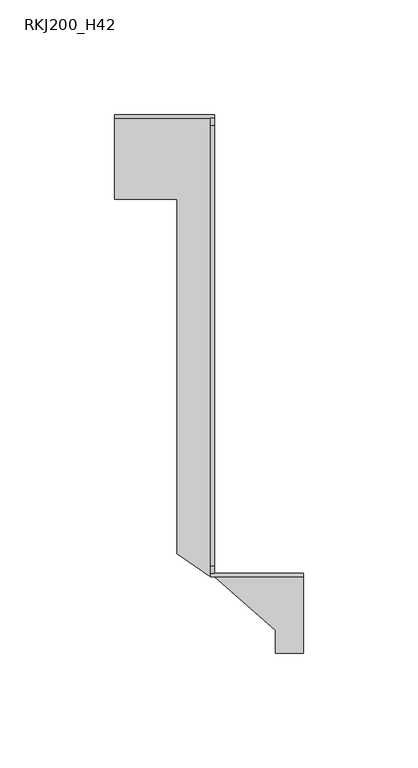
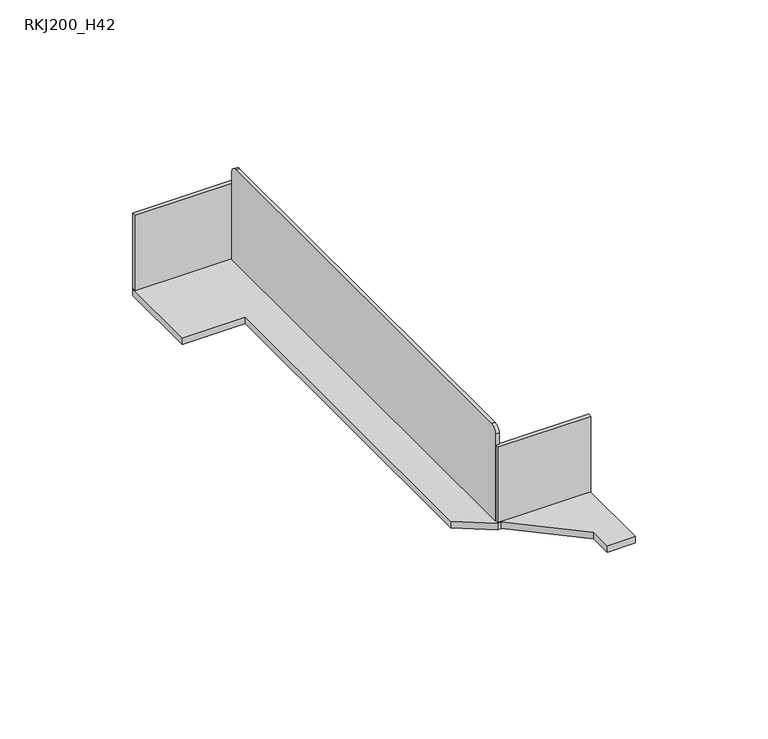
"""IFC4 building model written with IfcOpenShell, lengths in millimetres: cable carrier fitting geometry, BAKS_Angle reducer : RKJ200_H42."""

import ifcopenshell
import ifcopenshell.guid

model = None  # the IFC model being written
_history = None  # IfcOwnerHistory: only IFC2X3 demands one
_inside = {}  # id of a spatial element -> (the spatial element, [elements in it])
_under = {}  # id of a project, library or spatial element -> (it, [spatial elements below it])
_declared = {}  # id of a project -> (the project, [libraries it declares])
_typed = {}  # id of a type object -> (the type object, [elements of that type])
_made_of = {}  # id of a material, layer set ... -> (it, [elements and type objects made of it])


def new_model(schema):
    """Start an empty IFC model of exactly this schema.

    Asked for "IFC4X3", IfcOpenShell would pick the latest addendum, in which some entities
    have other attributes; the version numbers below select the first issue.
    IFC2X3 requires an IfcOwnerHistory on every rooted entity: one is made here for all.
    """
    global model, _history
    if schema == "IFC4X3":
        model = ifcopenshell.file(schema_version=(4, 3, 0, 0))
    else:
        model = ifcopenshell.file(schema=schema)
    _inside.clear()
    _under.clear()
    _declared.clear()
    _typed.clear()
    _made_of.clear()
    _history = None
    if model.schema == "IFC2X3":
        org = make("IfcOrganization", Name="unknown")
        user = make(
            "IfcPersonAndOrganization",
            ThePerson=make("IfcPerson", FamilyName="unknown"),
            TheOrganization=org,
        )
        app = make(
            "IfcApplication",
            ApplicationDeveloper=org,
            Version="unknown",
            ApplicationFullName="unknown",
            ApplicationIdentifier="unknown",
        )
        _history = make(
            "IfcOwnerHistory",
            OwningUser=user,
            OwningApplication=app,
            ChangeAction="ADDED",
            CreationDate=0,
        )
    return model


def make(cls, **values):
    """One entity of the class cls with the attributes given. An attribute that is None is left unset."""
    return model.create_entity(
        cls, **{name: value for name, value in values.items() if value is not None}
    )


def rooted(cls, **values):
    """An entity with a GlobalId (a new one), such as an element, a storey or a relation."""
    return make(cls, GlobalId=ifcopenshell.guid.new(), OwnerHistory=_history, **values)


def si_unit(unit_type, name, prefix=None):
    """IfcSIUnit, for example si_unit("LENGTHUNIT", "METRE", prefix="MILLI")."""
    return make("IfcSIUnit", UnitType=unit_type, Prefix=prefix, Name=name)


def assignment(units):
    """IfcUnitAssignment: the units of a project."""
    return None if units is None else make("IfcUnitAssignment", Units=units)


def point(xyz):
    """IfcCartesianPoint."""
    return None if xyz is None else make("IfcCartesianPoint", Coordinates=xyz)


def direction(xyz):
    """IfcDirection."""
    return None if xyz is None else make("IfcDirection", DirectionRatios=xyz)


def frame(location, z_axis=None, x_axis=None):
    """IfcAxis2Placement3D, a coordinate frame: its origin and axes. An axis left out is left unset."""
    return make(
        "IfcAxis2Placement3D",
        Location=point(location),
        Axis=direction(z_axis),
        RefDirection=direction(x_axis),
    )


def frame_2d(location, x_axis=None):
    """IfcAxis2Placement2D, a coordinate frame in the plane: its origin and x axis."""
    return make(
        "IfcAxis2Placement2D", Location=point(location), RefDirection=direction(x_axis)
    )


def origin():
    """The frame at (0, 0, 0) with its axes left unset."""
    return frame((0.0, 0.0, 0.0))


def place(relative_to, where):
    """IfcLocalPlacement: puts the frame where relative to a parent placement (None: the world)."""
    return make(
        "IfcLocalPlacement", PlacementRelTo=relative_to, RelativePlacement=where
    )


def context(
    kind, dimensions, precision=None, world=None, true_north=None, identifier=None
):
    """IfcGeometricRepresentationContext, for example the 3D "Model" context."""
    return make(
        "IfcGeometricRepresentationContext",
        ContextIdentifier=identifier,
        ContextType=kind,
        CoordinateSpaceDimension=dimensions,
        Precision=precision,
        WorldCoordinateSystem=world,
        TrueNorth=true_north,
    )


def project(units=None, contexts=None):
    """IfcProject with its units and contexts."""
    return rooted(
        "IfcProject",
        Name="project",
        RepresentationContexts=contexts,
        UnitsInContext=assignment(units),
    )


def spatial(cls, under=None, at=None, **own):
    """A site, building, storey or space (cls), placed at a placement, below another one or the project."""
    s = rooted(cls, ObjectPlacement=at, **own)
    if under is not None:
        _under.setdefault(under.id(), (under, []))[1].append(s)
    return s


def polyline(points):
    """IfcPolyline through the points."""
    return make("IfcPolyline", Points=[point(p) for p in points])


def circle_curve(where, radius):
    """IfcCircle in the frame where."""
    return make("IfcCircle", Position=where, Radius=radius)


def trimmed(basis, trim1, trim2, sense, master):
    """IfcTrimmedCurve: the piece of a basis curve between two trims."""
    return make(
        "IfcTrimmedCurve",
        BasisCurve=basis,
        Trim1=trim1,
        Trim2=trim2,
        SenseAgreement=sense,
        MasterRepresentation=master,
    )


def segment(curve, same_sense, transition):
    """IfcCompositeCurveSegment."""
    return make(
        "IfcCompositeCurveSegment",
        Transition=transition,
        SameSense=same_sense,
        ParentCurve=curve,
    )


def composite_curve(segments, self_intersect=None):
    """IfcCompositeCurve: segments joined end to end."""
    return make("IfcCompositeCurve", Segments=segments, SelfIntersect=self_intersect)


def outline(outer, holes=None, kind="AREA"):
    """IfcArbitraryClosedProfileDef: a profile drawn as a closed curve; with holes, ...WithVoids."""
    if holes is None:
        return make("IfcArbitraryClosedProfileDef", ProfileType=kind, OuterCurve=outer)
    return make(
        "IfcArbitraryProfileDefWithVoids",
        ProfileType=kind,
        OuterCurve=outer,
        InnerCurves=holes,
    )


def extrude(swept, where, along, depth):
    """IfcExtrudedAreaSolid: the profile swept, set in the frame where, extruded along a direction by depth."""
    return make(
        "IfcExtrudedAreaSolid",
        SweptArea=swept,
        Position=where,
        ExtrudedDirection=direction(along),
        Depth=depth,
    )


def shape(context_of_items, identifier, shape_type, items):
    """IfcShapeRepresentation: the items that make up one representation, for example the "Body"."""
    return make(
        "IfcShapeRepresentation",
        ContextOfItems=context_of_items,
        RepresentationIdentifier=identifier,
        RepresentationType=shape_type,
        Items=items,
    )


def source(mapping_origin, context_of_items, identifier, shape_type, items):
    """IfcRepresentationMap: a shape defined once, which mapped items show again and again."""
    return make(
        "IfcRepresentationMap",
        MappingOrigin=mapping_origin,
        MappedRepresentation=shape(context_of_items, identifier, shape_type, items),
    )


def transform(
    local_origin,
    x_axis=None,
    y_axis=None,
    z_axis=None,
    scale=None,
    scale2=None,
    scale3=None,
    uniform=True,
):
    """IfcCartesianTransformationOperator3D, or its non-uniform kind. x_axis, y_axis, z_axis: its Axis1, 2, 3."""
    if uniform:
        return make(
            "IfcCartesianTransformationOperator3D",
            Axis1=direction(x_axis),
            Axis2=direction(y_axis),
            LocalOrigin=point(local_origin),
            Scale=scale,
            Axis3=direction(z_axis),
        )
    return make(
        "IfcCartesianTransformationOperator3DnonUniform",
        Axis1=direction(x_axis),
        Axis2=direction(y_axis),
        LocalOrigin=point(local_origin),
        Scale=scale,
        Axis3=direction(z_axis),
        Scale2=scale2,
        Scale3=scale3,
    )


def mapped(mapping_source, mapping_target):
    """IfcMappedItem: shows the shape of a source again, moved by a transform."""
    return make(
        "IfcMappedItem", MappingSource=mapping_source, MappingTarget=mapping_target
    )


def made_of(thing, what):
    """Note that an element or type object is made of a material, layer set ...; save() writes the relation."""
    if what is not None:
        _made_of.setdefault(what.id(), (what, []))[1].append(thing)
    return thing


def element(
    cls,
    number,
    at=None,
    inside=None,
    cuts=None,
    type_object=None,
    material=None,
    context=None,
    identifier="Body",
    shape_type=None,
    held_by="IfcProductDefinitionShape",
    body=None,
    shapes=None,
    **own,
):
    """One element of the class cls, such as IfcWall. Its Tag is "e" and its number.

    at: its placement. inside: the storey or other place that contains it. cuts: it is an
    opening in that element (IfcRelVoidsElement). A single representation is given by context,
    identifier, shape_type and body (its items); several are given by shapes. held_by: the class
    of the entity that holds the representations. save() writes the other relations.
    """
    e = rooted(cls, Tag="e%d" % number, ObjectPlacement=at, **own)
    if body is not None:
        shapes = [shape(context, identifier, shape_type, body)]
    if shapes is not None:
        e.Representation = make(held_by, Representations=shapes)
    if inside is not None:
        _inside.setdefault(inside.id(), (inside, []))[1].append(e)
    if cuts is not None:
        rooted(
            "IfcRelVoidsElement", RelatingBuildingElement=cuts, RelatedOpeningElement=e
        )
    if type_object is not None:
        _typed.setdefault(type_object.id(), (type_object, []))[1].append(e)
    return made_of(e, material)


def aggregate(whole, parts):
    """IfcRelAggregates: a whole, such as a stair, and the parts it consists of."""
    return rooted("IfcRelAggregates", RelatingObject=whole, RelatedObjects=parts)


def save(model, path):
    """Write the relations noted so far, then the file.

    IfcRelAggregates (storeys below a building ...), IfcRelContainedInSpatialStructure (elements
    in a storey), IfcRelDefinesByType, IfcRelAssociatesMaterial and IfcRelDeclares: one each for
    every whole, place, type object, material and project.
    """
    for whole, parts in _under.values():
        aggregate(whole, parts)
    for where, things in _inside.values():
        rooted(
            "IfcRelContainedInSpatialStructure",
            RelatedElements=things,
            RelatingStructure=where,
        )
    for kind, things in _typed.values():
        rooted("IfcRelDefinesByType", RelatedObjects=things, RelatingType=kind)
    for what, things in _made_of.values():
        rooted("IfcRelAssociatesMaterial", RelatedObjects=things, RelatingMaterial=what)
    for by, libraries in _declared.values():
        rooted("IfcRelDeclares", RelatingContext=by, RelatedDefinitions=libraries)
    model.write(path)


def rkj200_h42_828cf9d7(model_context):
    return source(origin(), model_context, "Body", "SweptSolid", [
        extrude(outline(polyline([(40.5, -83.375), (28.2962179, -83.375), (28.2962179, -73.375), (1.625, -50.0), (1.625, -48.375), (40.5, -48.375), (40.5, -83.375)])), frame((0.0, 0.0, -24.0), z_axis=(0.0, 0.0, 1.0), x_axis=(1.0, 0.0, 0.0)), (0.0, 0.0, 1.0), 3.0),
        extrude(outline(composite_curve([segment(trimmed(circle_curve(frame_2d((147.0, 19.0)), 3.0), [point((147.0, 22.0))], [point((150.0, 19.0))], False, "CARTESIAN"), True, "CONTINUOUS"), segment(polyline([(150.0, 19.0), (150.0, -21.0), (-48.375, -21.0), (-48.375, 19.0)]), True, "CONTINUOUS"), segment(trimmed(circle_curve(frame_2d((-45.375, 19.0)), 3.0), [point((-48.375, 19.0))], [point((-45.375, 22.0))], False, "CARTESIAN"), True, "CONTINUOUS"), segment(polyline([(-45.375, 22.0), (147.0, 22.0)]), True, "CONTINUOUS")], self_intersect=False)), frame((0.0, 0.0, 0.0), z_axis=(1.0, 0.0, 0.0), x_axis=(0.0, 1.0, 0.0)), (0.0, 0.0, 1.0), 1.625),
        extrude(outline(polyline([(-14.655422, -40.0), (-14.655422, 114.625), (-42.0, 114.625), (-42.0, 151.625), (1.625, 151.625), (1.625, -50.0), (0.0, -50.0), (-14.655422, -40.0)])), frame((0.0, 0.0, -24.0), z_axis=(0.0, 0.0, 1.0), x_axis=(1.0, 0.0, 0.0)), (0.0, 0.0, 1.0), 3.0),
        extrude(outline(polyline([(0.0, -50.0), (0.0, -48.375), (40.5, -48.375), (40.5, -50.0), (0.0, -50.0)])), frame((0.0, 0.0, -21.0), z_axis=(0.0, 0.0, 1.0), x_axis=(1.0, 0.0, 0.0)), (0.0, 0.0, 1.0), 35.0),
        extrude(outline(polyline([(1.625, 150.0), (-42.0, 150.0), (-42.0, 151.625), (1.625, 151.625), (1.625, 150.0)])), frame((0.0, 0.0, -21.0), z_axis=(0.0, 0.0, 1.0), x_axis=(1.0, 0.0, 0.0)), (0.0, 0.0, 1.0), 35.0),
    ])


if __name__ == "__main__":
    model = new_model("IFC4")
    model_context = context("Model", 3, world=origin())
    ifc_project = project(units=[si_unit("LENGTHUNIT", "METRE", prefix="MILLI")], contexts=[model_context])
    site = spatial("IfcSite", under=ifc_project)
    building = spatial("IfcBuilding", under=site)
    placement = place(None, origin())
    rkj200_h42_shape = rkj200_h42_828cf9d7(model_context)
    element("IfcCableCarrierFitting", 1, ObjectType="BAKS_Angle reducer : RKJ200_H42", at=placement, inside=building, context=model_context, shape_type="MappedRepresentation", body=[
        mapped(rkj200_h42_shape, transform((0.0, 0.0, 0.0), x_axis=(1.0, 0.0, 0.0), y_axis=(0.0, 1.0, 0.0), z_axis=(0.0, 0.0, 1.0))),
    ])
    save(model, "model.ifc")
